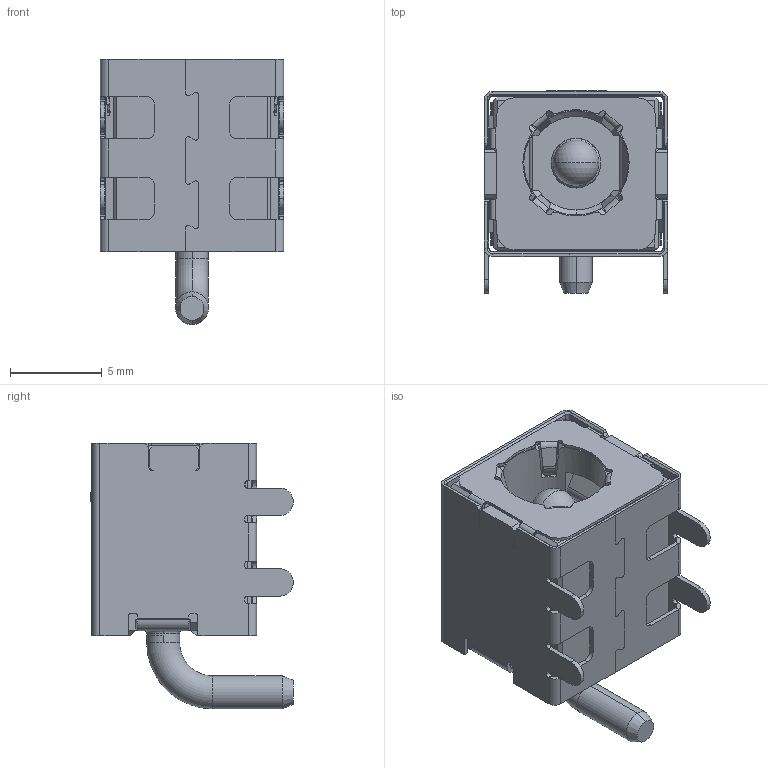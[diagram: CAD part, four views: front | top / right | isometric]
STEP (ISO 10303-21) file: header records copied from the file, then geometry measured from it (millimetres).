
FILE_DESCRIPTION (( 'STEP AP203' ), '1' );
FILE_NAME ('DC-S014A-D025-20A.STEP', '2023-07-14T11:44:27', ( '' ), ( '' ), 'SwSTEP 2.0', 'SolidWorks 2023', '' );
FILE_SCHEMA (( 'CONFIG_CONTROL_DESIGN' ));
Length unit declared in the file: millimetre
Products named in the file (1): DC-S014A-D025-20A
Bounding box: 10 x 11.05 x 14.5 mm (x, y, z)
Volume: 533 mm3; surface area: 2050.9 mm2
Topology: 1 solids, 1 shells, 1315 faces, 3569 edges, 2228 vertices
Faces by surface type: plane 819, cylinder 368, bspline 90, cone 32, torus 4, sphere 2
Entity records: 45525 total; most frequent: CARTESIAN_POINT 12899, ORIENTED_EDGE 7130, DIRECTION 6342, EDGE_CURVE 3565, VECTOR 2404, LINE 2404, VERTEX_POINT 2226, AXIS2_PLACEMENT_3D 1969
